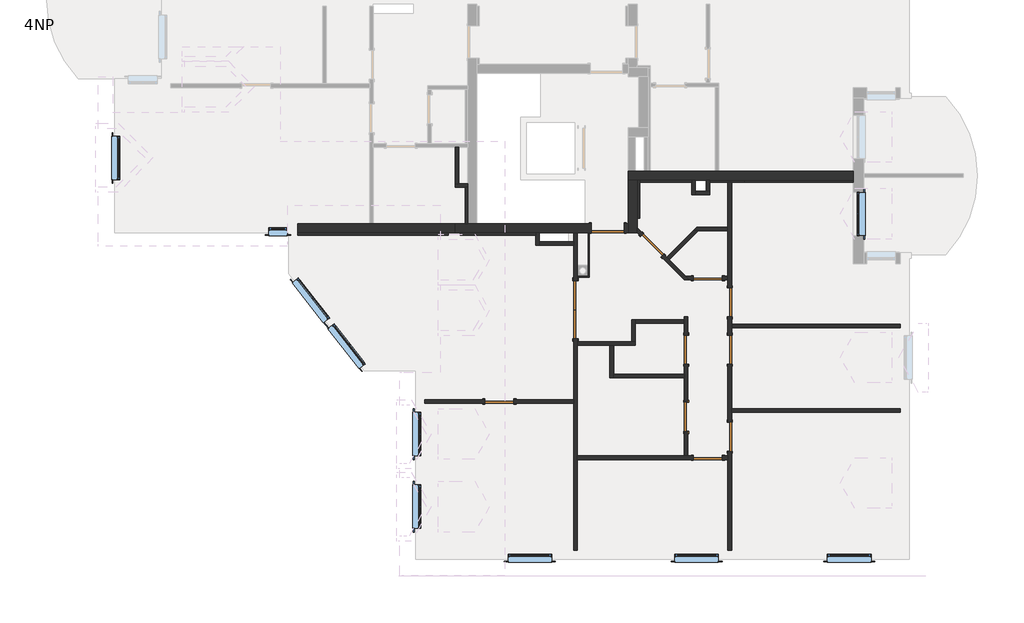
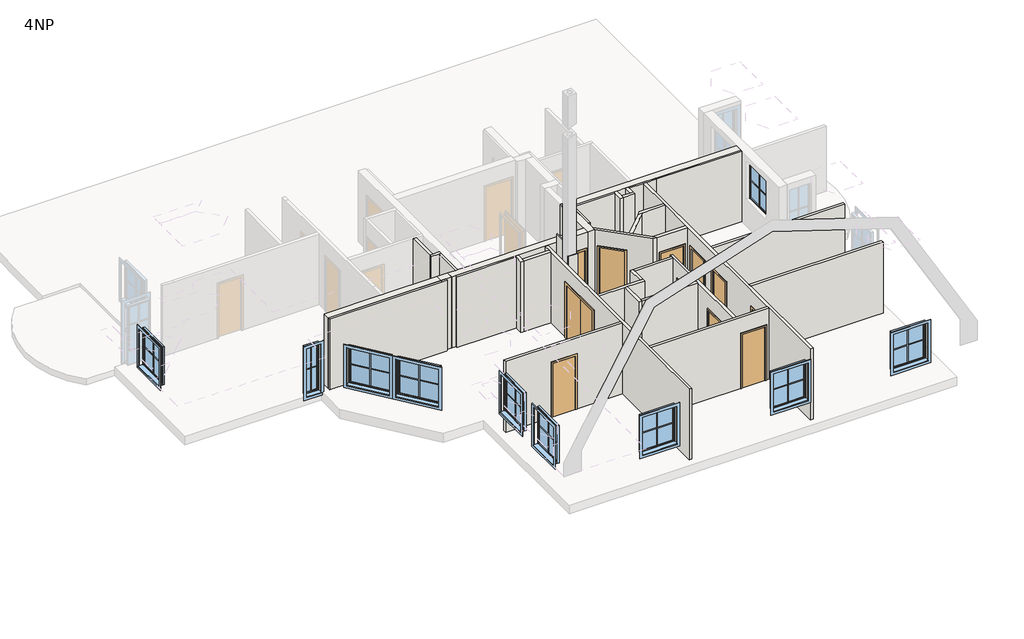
# One storey, part 1 of 5: 36 walls, 11 doors, 10 windows.
"""IFC4 building model written with IfcOpenShell, lengths in millimetres."""

from ifc_helpers import new_model, si_unit, frame, origin, place, context, project, spatial, polyline, outline, extrude, faceted_brep, transform, mapped, element, save
from components import door_1600_x_2000mm_ba48827e, sd_800x2000_6a16926d, sd_800x2000_80f4ff25, sd_900x2000_a6683946, standard_window_with_mullions_d3525f46, standard_window_with_mullions_80486b60, standard_window_with_mullions_8db575f9

model = new_model("IFC4")

# Units and contexts
model_context = context("Model", 3, world=origin())
ifc_project = project(units=[si_unit("LENGTHUNIT", "METRE", prefix="MILLI")], contexts=[model_context])

# Site, building, storey
site = spatial("IfcSite", under=ifc_project)
building = spatial("IfcBuilding", under=site)
storey = spatial("IfcBuildingStorey", under=building, Name="4NP", Elevation=8850.0)

# Doors
placement = place(None, origin())
door_1600_x_2000mm_shape = door_1600_x_2000mm_ba48827e(model_context)
element("IfcDoor", 1, ObjectType="DvoukridleOtevirave : 1600 x 2000mm", at=placement, inside=storey, context=model_context, shape_type="MappedRepresentation", body=[
    mapped(door_1600_x_2000mm_shape, transform((113.5618728, -4202.3709459, 8850.0), x_axis=(0.0, 1.0, 0.0), y_axis=(-1.0, 0.0, 0.0), z_axis=(0.0, 0.0, 1.0))),
])
sd_800x2000_shape = sd_800x2000_6a16926d(model_context)
element("IfcDoor", 2, ObjectType="JednokridlePlne : SD 800x2000", at=placement, inside=storey, context=model_context, shape_type="MappedRepresentation", body=[
    mapped(sd_800x2000_shape, transform((3162.8037835, -5302.3942243, 8850.0), x_axis=(0.0, -1.0, 0.0), y_axis=(1.0, 0.0, 0.0), z_axis=(0.0, 0.0, 1.0))),
])
element("IfcDoor", 3, ObjectType="JednokridlePlne : SD 800x2000", at=placement, inside=storey, context=model_context, shape_type="MappedRepresentation", body=[
    mapped(sd_800x2000_shape, transform((3162.8037835, -7157.3709459, 8850.0), x_axis=(0.0, -1.0, 0.0), y_axis=(1.0, 0.0, 0.0), z_axis=(0.0, 0.0, 1.0))),
])
element("IfcDoor", 4, ObjectType="JednokridlePlne : SD 800x2000", at=placement, inside=storey, context=model_context, shape_type="MappedRepresentation", body=[
    mapped(sd_800x2000_shape, transform((4362.8037835, -4002.3976507, 8850.0), x_axis=(0.0, 1.0, 0.0), y_axis=(-1.0, 0.0, 0.0), z_axis=(0.0, 0.0, 1.0))),
])
element("IfcDoor", 5, ObjectType="JednokridlePlne : SD 800x2000", at=placement, inside=storey, context=model_context, shape_type="MappedRepresentation", body=[
    mapped(sd_800x2000_shape, transform((2229.9981852, -2428.8520044, 8850.0), x_axis=(-0.7071057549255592, 0.7071078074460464, 0.0), y_axis=(-0.7071078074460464, -0.7071057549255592, 0.0), z_axis=(0.0, 0.0, 1.0))),
])
sd_800x2000_2_shape = sd_800x2000_80f4ff25(model_context)
element("IfcDoor", 6, ObjectType="JednokridlePlne : SD 800x2000", at=placement, inside=storey, context=model_context, shape_type="MappedRepresentation", body=[
    mapped(sd_800x2000_2_shape, transform((-1986.8171719, -6732.3709459, 8850.0), x_axis=(-1.0, 0.0, 0.0), y_axis=(0.0, -1.0, 0.0), z_axis=(0.0, 0.0, 1.0))),
])
element("IfcDoor", 7, ObjectType="JednokridlePlne : SD 800x2000", at=placement, inside=storey, context=model_context, shape_type="MappedRepresentation", body=[
    mapped(sd_800x2000_2_shape, transform((3762.8037834, -8282.3709459, 8850.0), x_axis=(-1.0, 0.0, 0.0), y_axis=(0.0, -1.0, 0.0), z_axis=(0.0, 0.0, 1.0))),
])
element("IfcDoor", 8, ObjectType="JednokridlePlne : SD 800x2000", at=placement, inside=storey, context=model_context, shape_type="MappedRepresentation", body=[
    mapped(sd_800x2000_2_shape, transform((4362.8037835, -5302.394226, 8850.0), x_axis=(0.0, -1.0, 0.0), y_axis=(1.0, 0.0, 0.0), z_axis=(0.0, 0.0, 1.0))),
])
element("IfcDoor", 9, ObjectType="JednokridlePlne : SD 800x2000", at=placement, inside=storey, context=model_context, shape_type="MappedRepresentation", body=[
    mapped(sd_800x2000_2_shape, transform((4362.8037835, -7700.6759544, 8850.0), x_axis=(0.0, -1.0, 0.0), y_axis=(1.0, 0.0, 0.0), z_axis=(0.0, 0.0, 1.0))),
])
element("IfcDoor", 10, ObjectType="JednokridlePlne : SD 800x2000", at=placement, inside=storey, context=model_context, shape_type="MappedRepresentation", body=[
    mapped(sd_800x2000_2_shape, transform((3762.8037834, -3332.3709459, 8850.0), x_axis=(-0.9999999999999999, 0.0, 0.0), y_axis=(0.0, -0.9999999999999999, 0.0), z_axis=(0.0, 0.0, 1.0))),
])
sd_900x2000_shape = sd_900x2000_a6683946(model_context)
element("IfcDoor", 11, ObjectType="JednokridlePlne : SD 900x2000", at=placement, inside=storey, context=model_context, shape_type="MappedRepresentation", body=[
    mapped(sd_900x2000_shape, transform((1002.808136, -1957.3709459, 8850.0), x_axis=(1.0, 0.0, 0.0), y_axis=(0.0, 1.0, 0.0), z_axis=(0.0, 0.0, 1.0))),
])

# Walls
element("IfcWall", 12, ObjectType="Interior - 100mm", at=placement, inside=storey, context=model_context, shape_type="SweptSolid", body=[
    extrude(outline(polyline([(-3207.1962165, -732.3709459), (-3207.1962165, 267.6290541), (-3107.1962165, 267.6290541), (-3107.1962165, -732.3709459), (-3207.1962165, -732.3709459)])), frame((0.0, 0.0, 8850.0), z_axis=(0.0, 0.0, 1.0), x_axis=(1.0, 0.0, 0.0)), (0.0, 0.0, 1.0), 2630.0),
])
element("IfcWall", 13, ObjectType="Interior - 100mm", at=placement, inside=storey, context=model_context, shape_type="Brep", body=[
    faceted_brep([(-3207.1962165, -832.3709459, 8850.0), (-2922.1962165, -832.3709459, 8850.0), (-2857.1962165, -832.3709459, 8850.0), (-2857.1962165, -832.3709459, 11480.0), (-2922.1962165, -832.3709459, 11480.0), (-3207.1962165, -832.3709459, 11480.0), (-3207.1962165, -732.3709459, 8850.0), (-3207.1962165, -732.3709459, 11480.0), (-3107.1962165, -732.3709459, 11480.0), (-2857.1962165, -732.3709459, 11480.0), (-2857.1962165, -732.3709459, 8850.0), (-3107.1962165, -732.3709459, 8850.0)], [[[0, 1, 2, 3, 4, 5]], [[6, 7, 8, 9, 10, 11]], [[2, 1, 0, 6, 11, 10]], [[0, 5, 7, 6]], [[3, 2, 10, 9]], [[5, 4, 3, 9, 8, 7]]]),
])
element("IfcWall", 14, ObjectType="Interior - 100mm", at=placement, inside=storey, context=model_context, shape_type="Brep", body=[
    faceted_brep([(-986.4381272, -2082.3709459, 8850.0), (-986.4381272, -2147.3709459, 8850.0), (-986.4381272, -2432.3709459, 8850.0), (-986.4381272, -2432.3709459, 11480.0), (-986.4381272, -2147.3709459, 11480.0), (-986.4381272, -2082.3709459, 11480.0), (-886.4381272, -2082.3709459, 8850.0), (-886.4381272, -2082.3709459, 11480.0), (-886.4381272, -2332.3709459, 11480.0), (-886.4381272, -2432.3709459, 11480.0), (-886.4381272, -2432.3709459, 8850.0), (-886.4381272, -2332.3709459, 8850.0)], [[[0, 1, 2, 3, 4, 5]], [[6, 7, 8, 9, 10, 11]], [[2, 1, 0, 6, 11, 10]], [[3, 2, 10, 9]], [[0, 5, 7, 6]], [[5, 4, 3, 9, 8, 7]]]),
])
element("IfcWall", 15, ObjectType="Interior - 100mm", at=placement, inside=storey, context=model_context, shape_type="Brep", body=[
    faceted_brep([(-886.4381272, -2432.3709459, 8850.0), (63.5618728, -2432.3709459, 8850.0), (63.5618728, -2432.3709459, 11480.0), (-886.4381272, -2432.3709459, 11480.0), (-886.4381272, -2332.3709459, 8850.0), (-886.4381272, -2332.3709459, 11480.0), (-86.4381272, -2332.3709459, 11480.0), (63.5618728, -2332.3709459, 11480.0), (63.5618728, -2332.3709459, 8850.0)], [[[0, 1, 2, 3]], [[4, 5, 6, 7, 8]], [[1, 0, 4, 8]], [[0, 3, 5, 4]], [[2, 1, 8, 7]], [[3, 2, 7, 6, 5]]]),
])
element("IfcWall", 16, ObjectType="Interior - 100mm", at=placement, inside=storey, context=model_context, shape_type="Brep", body=[
    faceted_brep([(3312.8037835, -632.3709459, 8850.0), (3312.8037835, -697.3709459, 8850.0), (3312.8037835, -1032.3709459, 8850.0), (3312.8037835, -1032.3709459, 11480.0), (3312.8037835, -697.3709459, 11480.0), (3312.8037835, -632.3709459, 11480.0), (3412.8037835, -632.3709459, 8850.0), (3412.8037835, -632.3709459, 11480.0), (3412.8037835, -932.3709459, 11480.0), (3412.8037835, -1032.3709459, 11480.0), (3412.8037835, -1032.3709459, 8850.0), (3412.8037835, -932.3709459, 8850.0)], [[[0, 1, 2, 3, 4, 5]], [[6, 7, 8, 9, 10, 11]], [[2, 1, 0, 6, 11, 10]], [[3, 2, 10, 9]], [[0, 5, 7, 6]], [[5, 4, 3, 9, 8, 7]]]),
])
element("IfcWall", 17, ObjectType="Interior - 100mm", at=placement, inside=storey, context=model_context, shape_type="Brep", body=[
    faceted_brep([(3412.8037835, -1032.3709459, 8850.0), (3812.8037835, -1032.3709459, 8850.0), (3812.8037835, -1032.3709459, 11480.0), (3412.8037835, -1032.3709459, 11480.0), (3412.8037835, -932.3709459, 8850.0), (3412.8037835, -932.3709459, 11480.0), (3712.8037835, -932.3709459, 11480.0), (3812.8037835, -932.3709459, 11480.0), (3812.8037835, -932.3709459, 8850.0), (3712.8037835, -932.3709459, 8850.0)], [[[0, 1, 2, 3]], [[4, 5, 6, 7, 8, 9]], [[1, 0, 4, 9, 8]], [[2, 1, 8, 7]], [[0, 3, 5, 4]], [[3, 2, 7, 6, 5]]]),
])
element("IfcWall", 18, ObjectType="Interior - 100mm", at=placement, inside=storey, context=model_context, shape_type="Brep", body=[
    faceted_brep([(3812.8037835, -932.3709459, 8850.0), (3812.8037835, -697.3709459, 8850.0), (3812.8037835, -632.3709459, 8850.0), (3812.8037835, -632.3709459, 11480.0), (3812.8037835, -697.3709459, 11480.0), (3812.8037835, -932.3709459, 11480.0), (3712.8037835, -932.3709459, 8850.0), (3712.8037835, -932.3709459, 11480.0), (3712.8037835, -632.3709459, 11480.0), (3712.8037835, -632.3709459, 8850.0)], [[[0, 1, 2, 3, 4, 5]], [[6, 7, 8, 9]], [[2, 1, 0, 6, 9]], [[0, 5, 7, 6]], [[3, 2, 9, 8]], [[5, 4, 3, 8, 7]]]),
])
element("IfcWall", 19, ObjectType="Interior - 100mm", at=placement, inside=storey, context=model_context, shape_type="Brep", body=[
    faceted_brep([(63.5618728, -2097.3540193, 8850.0), (63.5618728, -2332.3709459, 8850.0), (63.5618728, -2432.3709459, 8850.0), (63.5618728, -3402.3709459, 8850.0), (63.5618728, -3402.3709459, 10850.0), (63.5618728, -5002.3709459, 10850.0), (63.5618728, -5002.3709459, 8850.0), (63.5618728, -6682.3709459, 8850.0), (63.5618728, -6782.3709459, 8850.0), (63.5618728, -10832.3709459, 8850.0), (63.5618728, -10832.3709459, 11480.0), (63.5618728, -6782.3709459, 11480.0), (63.5618728, -6682.3709459, 11480.0), (63.5618728, -2432.3709459, 11480.0), (63.5618728, -2332.3709459, 11480.0), (63.5618728, -2097.3540193, 11480.0), (163.5618728, -3402.3709459, 10850.0), (163.5618728, -3402.3709459, 8850.0), (163.5618728, -3312.3709459, 8850.0), (163.5618728, -3282.3709459, 8850.0), (163.5618728, -2982.3709459, 8850.0), (163.5618728, -2097.3540193, 8850.0), (163.5618728, -2097.3540193, 11480.0), (163.5618728, -5082.3709459, 11480.0), (163.5618728, -5182.3709459, 11480.0), (163.5618728, -8232.3709459, 11480.0), (163.5618728, -8332.3709459, 11480.0), (163.5618728, -10832.3709459, 11480.0), (163.5618728, -10832.3709459, 8850.0), (163.5618728, -8332.3709459, 8850.0), (163.5618728, -8232.3709459, 8850.0), (163.5618728, -5182.3709459, 8850.0), (163.5618728, -5082.3709459, 8850.0), (163.5618728, -5002.3709459, 8850.0), (163.5618728, -5002.3709459, 10850.0)], [[[0, 1, 2, 3, 4, 5, 6, 7, 8, 9, 10, 11, 12, 13, 14, 15]], [[16, 17, 18, 19, 20, 21, 22, 23, 24, 25, 26, 27, 28, 29, 30, 31, 32, 33, 34]], [[21, 20, 19, 18, 17, 3, 2, 1, 0]], [[33, 32, 31, 30, 29, 28, 9, 8, 7, 6]], [[0, 15, 22, 21]], [[10, 9, 28, 27]], [[15, 14, 13, 12, 11, 10, 27, 26, 25, 24, 23, 22]], [[4, 3, 17, 16]], [[5, 4, 16, 34]], [[6, 5, 34, 33]]]),
])
element("IfcWall", 20, ObjectType="Interior - 100mm", at=placement, inside=storey, context=model_context, shape_type="SweptSolid", body=[
    extrude(outline(polyline([(8850.0, -4037.1962165), (8850.0, -2386.8171719), (10850.0, -2386.8171719), (10850.0, -1586.8171719), (8850.0, -1586.8171719), (8850.0, 63.5618728), (11480.0, 63.5618728), (11480.0, -4037.1962165), (8850.0, -4037.1962165)])), frame((0.0, -6782.3709459, 0.0), z_axis=(0.0, 1.0, 0.0), x_axis=(0.0, 0.0, 1.0)), (0.0, 0.0, 1.0), 100.0),
])
element("IfcWall", 21, ObjectType="Interior - 100mm", at=placement, inside=storey, context=model_context, shape_type="Brep", body=[
    faceted_brep([(163.5618728, -5182.3709459, 8850.0), (1063.5618728, -5182.3709459, 8850.0), (1163.5618728, -5182.3709459, 8850.0), (1763.5618728, -5182.3709459, 8850.0), (1763.5618728, -5182.3709459, 11480.0), (1163.5618728, -5182.3709459, 11480.0), (1063.5618728, -5182.3709459, 11480.0), (163.5618728, -5182.3709459, 11480.0), (163.5618728, -5082.3709459, 8850.0), (163.5618728, -5082.3709459, 11480.0), (1663.5618728, -5082.3709459, 11480.0), (1763.5618728, -5082.3709459, 11480.0), (1763.5618728, -5082.3709459, 8850.0), (1663.5618728, -5082.3709459, 8850.0)], [[[0, 1, 2, 3, 4, 5, 6, 7]], [[8, 9, 10, 11, 12, 13]], [[3, 2, 1, 0, 8, 13, 12]], [[4, 3, 12, 11]], [[0, 7, 9, 8]], [[7, 6, 5, 4, 11, 10, 9]]]),
])
element("IfcWall", 22, ObjectType="Interior - 100mm", at=placement, inside=storey, context=model_context, shape_type="Brep", body=[
    faceted_brep([(1763.5618728, -5082.3709459, 8850.0), (1763.5618728, -4582.3709459, 8850.0), (1763.5618728, -4482.3709459, 8850.0), (1763.5618728, -4482.3709459, 11480.0), (1763.5618728, -4582.3709459, 11480.0), (1763.5618728, -5082.3709459, 11480.0), (1663.5618728, -5082.3709459, 8850.0), (1663.5618728, -5082.3709459, 11480.0), (1663.5618728, -4482.3709459, 11480.0), (1663.5618728, -4482.3709459, 8850.0)], [[[0, 1, 2, 3, 4, 5]], [[6, 7, 8, 9]], [[2, 1, 0, 6, 9]], [[3, 2, 9, 8]], [[0, 5, 7, 6]], [[5, 4, 3, 8, 7]]]),
])
element("IfcWall", 23, ObjectType="Interior - 100mm", at=placement, inside=storey, context=model_context, shape_type="SweptSolid", body=[
    extrude(outline(polyline([(3112.8037835, -4582.3709459), (1763.5618728, -4582.3709459), (1763.5618728, -4482.3709459), (3112.8037835, -4482.3709459), (3112.8037835, -4582.3709459)])), frame((0.0, 0.0, 8850.0), z_axis=(0.0, 0.0, 1.0), x_axis=(1.0, 0.0, 0.0)), (0.0, 0.0, 1.0), 2630.0),
])
element("IfcWall", 24, ObjectType="Interior - 100mm", at=placement, inside=storey, context=model_context, shape_type="Brep", body=[
    faceted_brep([(3112.8037835, -7557.3709459, 10850.0), (3112.8037835, -7557.3709459, 8850.0), (3112.8037835, -8232.3709459, 8850.0), (3112.8037835, -8232.3709459, 11480.0), (3112.8037835, -6082.3709459, 11480.0), (3112.8037835, -5982.3709459, 11480.0), (3112.8037835, -4582.3709459, 11480.0), (3112.8037835, -4482.3709459, 11480.0), (3112.8037835, -4397.3540193, 11480.0), (3112.8037835, -4397.3540193, 8850.0), (3112.8037835, -4482.3709459, 8850.0), (3112.8037835, -4582.3709459, 8850.0), (3112.8037835, -4902.3942243, 8850.0), (3112.8037835, -4902.3942243, 10850.0), (3112.8037835, -5702.3942243, 10850.0), (3112.8037835, -5702.3942243, 8850.0), (3112.8037835, -5982.3709459, 8850.0), (3112.8037835, -6082.3709459, 8850.0), (3112.8037835, -6757.3709459, 8850.0), (3112.8037835, -6757.3709459, 10850.0), (3212.8037835, -8232.3709459, 8850.0), (3212.8037835, -7557.3709459, 8850.0), (3212.8037835, -7557.3709459, 10850.0), (3212.8037835, -6757.3709459, 10850.0), (3212.8037835, -6757.3709459, 8850.0), (3212.8037835, -5702.3942243, 8850.0), (3212.8037835, -5702.3942243, 10850.0), (3212.8037835, -4902.3942243, 10850.0), (3212.8037835, -4902.3942243, 8850.0), (3212.8037835, -4397.3540193, 8850.0), (3212.8037835, -4397.3540193, 11480.0), (3212.8037835, -8232.3709459, 11480.0)], [[[0, 1, 2, 3, 4, 5, 6, 7, 8, 9, 10, 11, 12, 13, 14, 15, 16, 17, 18, 19]], [[20, 21, 22, 23, 24, 25, 26, 27, 28, 29, 30, 31]], [[2, 1, 21, 20]], [[12, 11, 10, 9, 29, 28]], [[18, 17, 16, 15, 25, 24]], [[9, 8, 30, 29]], [[3, 2, 20, 31]], [[8, 7, 6, 5, 4, 3, 31, 30]], [[26, 25, 15, 14]], [[27, 26, 14, 13]], [[28, 27, 13, 12]], [[22, 21, 1, 0]], [[23, 22, 0, 19]], [[24, 23, 19, 18]]]),
])
element("IfcWall", 25, ObjectType="Interior - 100mm", at=placement, inside=storey, context=model_context, shape_type="Brep", body=[
    faceted_brep([(1063.5618728, -5182.3709459, 8850.0), (1063.5618728, -6082.3709459, 8850.0), (1063.5618728, -6082.3709459, 11480.0), (1063.5618728, -5182.3709459, 11480.0), (1163.5618728, -5182.3709459, 8850.0), (1163.5618728, -5182.3709459, 11480.0), (1163.5618728, -5982.3709459, 11480.0), (1163.5618728, -6082.3709459, 11480.0), (1163.5618728, -6082.3709459, 8850.0), (1163.5618728, -5982.3709459, 8850.0)], [[[0, 1, 2, 3]], [[4, 5, 6, 7, 8, 9]], [[1, 0, 4, 9, 8]], [[2, 1, 8, 7]], [[0, 3, 5, 4]], [[3, 2, 7, 6, 5]]]),
])
element("IfcWall", 26, ObjectType="Interior - 100mm", at=placement, inside=storey, context=model_context, shape_type="SweptSolid", body=[
    extrude(outline(polyline([(3112.8037835, -6082.3709459), (1163.5618728, -6082.3709459), (1163.5618728, -5982.3709459), (3112.8037835, -5982.3709459), (3112.8037835, -6082.3709459)])), frame((0.0, 0.0, 8850.0), z_axis=(0.0, 0.0, 1.0), x_axis=(1.0, 0.0, 0.0)), (0.0, 0.0, 1.0), 2630.0),
])
element("IfcWall", 27, ObjectType="Interior - 100mm", at=placement, inside=storey, context=model_context, shape_type="Brep", body=[
    faceted_brep([(163.5618728, -8332.3709459, 8850.0), (3362.8037834, -8332.3709459, 8850.0), (3362.8037834, -8332.3709459, 10850.0), (4162.8037834, -8332.3709459, 10850.0), (4162.8037834, -8332.3709459, 8850.0), (4312.8037835, -8332.3709459, 8850.0), (4312.8037835, -8332.3709459, 11480.0), (163.5618728, -8332.3709459, 11480.0), (3362.8037834, -8232.3709459, 10850.0), (3362.8037834, -8232.3709459, 8850.0), (3212.8037835, -8232.3709459, 8850.0), (3112.8037835, -8232.3709459, 8850.0), (163.5618728, -8232.3709459, 8850.0), (163.5618728, -8232.3709459, 11480.0), (3112.8037835, -8232.3709459, 11480.0), (3212.8037835, -8232.3709459, 11480.0), (4312.8037835, -8232.3709459, 11480.0), (4312.8037835, -8232.3709459, 8850.0), (4162.8037834, -8232.3709459, 8850.0), (4162.8037834, -8232.3709459, 10850.0)], [[[0, 1, 2, 3, 4, 5, 6, 7]], [[8, 9, 10, 11, 12, 13, 14, 15, 16, 17, 18, 19]], [[12, 11, 10, 9, 1, 0]], [[18, 17, 5, 4]], [[0, 7, 13, 12]], [[6, 5, 17, 16]], [[7, 6, 16, 15, 14, 13]], [[2, 1, 9, 8]], [[3, 2, 8, 19]], [[4, 3, 19, 18]]]),
])
element("IfcWall", 28, ObjectType="Interior - 100mm", at=placement, inside=storey, context=model_context, shape_type="Brep", body=[
    faceted_brep([(1812.807557, -2082.3709459, 8850.0), (1911.8004928, -2181.3641691, 8850.0), (1911.8004928, -2181.3641691, 10850.0), (2477.4850968, -2747.0504151, 10850.0), (2477.4850968, -2747.0504151, 8850.0), (3112.8037835, -3382.3709459, 8850.0), (3112.8037835, -3382.3709459, 11480.0), (1812.807557, -2082.3709459, 11480.0), (1982.5112736, -2110.6535936, 10850.0), (1982.5112736, -2110.6535936, 8850.0), (1812.8076722, -1940.9494996, 8850.0), (1812.8076722, -1940.9494996, 11480.0), (2629.2247893, -2757.3689866, 11480.0), (2699.9353648, -2828.0797673, 11480.0), (3154.2252247, -3282.3709459, 11480.0), (3254.2249345, -3382.3709459, 11480.0), (3254.2249345, -3382.3709459, 8850.0), (3154.2252247, -3282.3709459, 8850.0), (2699.9353648, -2828.0797673, 8850.0), (2629.2247893, -2757.3689866, 8850.0), (2548.1958775, -2676.3398396, 8850.0), (2548.1958775, -2676.3398396, 10850.0)], [[[0, 1, 2, 3, 4, 5, 6, 7]], [[8, 9, 10, 11, 12, 13, 14, 15, 16, 17, 18, 19, 20, 21]], [[10, 9, 1, 0]], [[20, 19, 18, 17, 16, 5, 4]], [[6, 5, 16, 15]], [[0, 7, 11, 10]], [[7, 6, 15, 14, 13, 12, 11]], [[2, 1, 9, 8]], [[3, 2, 8, 21]], [[4, 3, 21, 20]]]),
])
element("IfcWall", 29, ObjectType="Interior - 100mm", at=placement, inside=storey, context=model_context, shape_type="Brep", body=[
    faceted_brep([(3254.2249345, -3382.3709459, 8850.0), (3362.8037834, -3382.3709459, 8850.0), (3362.8037834, -3382.3709459, 10850.0), (4162.8037834, -3382.3709459, 10850.0), (4162.8037834, -3382.3709459, 8850.0), (4312.8037835, -3382.3709459, 8850.0), (4312.8037835, -3382.3709459, 11480.0), (3254.2249345, -3382.3709459, 11480.0), (3362.8037834, -3282.3709459, 10850.0), (3362.8037834, -3282.3709459, 8850.0), (3154.2252247, -3282.3709459, 8850.0), (3154.2252247, -3282.3709459, 11480.0), (4312.8037835, -3282.3709459, 11480.0), (4312.8037835, -3282.3709459, 8850.0), (4162.8037834, -3282.3709459, 8850.0), (4162.8037834, -3282.3709459, 10850.0)], [[[0, 1, 2, 3, 4, 5, 6, 7]], [[8, 9, 10, 11, 12, 13, 14, 15]], [[10, 9, 1, 0]], [[14, 13, 5, 4]], [[0, 7, 11, 10]], [[6, 5, 13, 12]], [[7, 6, 12, 11]], [[2, 1, 9, 8]], [[3, 2, 8, 15]], [[4, 3, 15, 14]]]),
])
element("IfcWall", 30, ObjectType="Interior - 100mm", at=placement, inside=storey, context=model_context, shape_type="Brep", body=[
    faceted_brep([(4312.8037835, -1932.3709459, 8850.0), (3454.2252247, -1932.3709459, 8850.0), (3454.2252247, -1932.3709459, 11480.0), (4312.8037835, -1932.3709459, 11480.0), (4312.8037835, -2032.3709459, 8850.0), (4312.8037835, -2032.3709459, 11480.0), (3495.6464959, -2032.3709459, 11480.0), (3354.2249345, -2032.3709459, 11480.0), (3354.2249345, -2032.3709459, 8850.0), (3495.6464959, -2032.3709459, 8850.0)], [[[0, 1, 2, 3]], [[4, 5, 6, 7, 8, 9]], [[1, 0, 4, 9, 8]], [[2, 1, 8, 7]], [[0, 3, 5, 4]], [[3, 2, 7, 6, 5]]]),
])
element("IfcWall", 31, ObjectType="Interior - 100mm", at=placement, inside=storey, context=model_context, shape_type="SweptSolid", body=[
    extrude(outline(polyline([(2629.2247893, -2757.3689866), (3354.2249345, -2032.3709459), (3495.6464959, -2032.3709459), (2699.9353648, -2828.0797673), (2629.2247893, -2757.3689866)])), frame((0.0, 0.0, 8850.0), z_axis=(0.0, 0.0, 1.0), x_axis=(1.0, 0.0, 0.0)), (0.0, 0.0, 1.0), 2630.0),
])
element("IfcWall", 32, ObjectType="Interior - 100mm", at=placement, inside=storey, context=model_context, shape_type="Brep", body=[
    faceted_brep([(4312.8037835, -697.3709459, 8850.0), (4312.8037835, -1932.3709459, 8850.0), (4312.8037835, -2032.3709459, 8850.0), (4312.8037835, -3282.3709459, 8850.0), (4312.8037835, -3382.3709459, 8850.0), (4312.8037835, -3602.3976507, 8850.0), (4312.8037835, -3602.3976507, 10850.0), (4312.8037835, -4402.3976507, 10850.0), (4312.8037835, -4402.3976507, 8850.0), (4312.8037835, -4902.394226, 8850.0), (4312.8037835, -4902.394226, 10850.0), (4312.8037835, -5702.394226, 10850.0), (4312.8037835, -5702.394226, 8850.0), (4312.8037835, -7300.6759544, 8850.0), (4312.8037835, -7300.6759544, 10850.0), (4312.8037835, -8100.6759544, 10850.0), (4312.8037835, -8100.6759544, 8850.0), (4312.8037835, -8232.3709459, 8850.0), (4312.8037835, -8332.3709459, 8850.0), (4312.8037835, -10832.3709459, 8850.0), (4312.8037835, -10832.3709459, 11480.0), (4312.8037835, -8332.3709459, 11480.0), (4312.8037835, -8232.3709459, 11480.0), (4312.8037835, -3382.3709459, 11480.0), (4312.8037835, -3282.3709459, 11480.0), (4312.8037835, -2032.3709459, 11480.0), (4312.8037835, -1932.3709459, 11480.0), (4312.8037835, -697.3709459, 11480.0), (4412.8037835, -3602.3976507, 10850.0), (4412.8037835, -3602.3976507, 8850.0), (4412.8037835, -697.3709459, 8850.0), (4412.8037835, -697.3709459, 11480.0), (4412.8037835, -4602.3709459, 11480.0), (4412.8037835, -4702.3709459, 11480.0), (4412.8037835, -6932.3709459, 11480.0), (4412.8037835, -7032.3709459, 11480.0), (4412.8037835, -10832.3709459, 11480.0), (4412.8037835, -10832.3709459, 8850.0), (4412.8037835, -8100.6759544, 8850.0), (4412.8037835, -8100.6759544, 10850.0), (4412.8037835, -7300.6759544, 10850.0), (4412.8037835, -7300.6759544, 8850.0), (4412.8037835, -7032.3709459, 8850.0), (4412.8037835, -6932.3709459, 8850.0), (4412.8037835, -5702.394226, 8850.0), (4412.8037835, -5702.394226, 10850.0), (4412.8037835, -4902.394226, 10850.0), (4412.8037835, -4902.394226, 8850.0), (4412.8037835, -4702.3709459, 8850.0), (4412.8037835, -4602.3709459, 8850.0), (4412.8037835, -4402.3976507, 8850.0), (4412.8037835, -4402.3976507, 10850.0)], [[[0, 1, 2, 3, 4, 5, 6, 7, 8, 9, 10, 11, 12, 13, 14, 15, 16, 17, 18, 19, 20, 21, 22, 23, 24, 25, 26, 27]], [[28, 29, 30, 31, 32, 33, 34, 35, 36, 37, 38, 39, 40, 41, 42, 43, 44, 45, 46, 47, 48, 49, 50, 51]], [[19, 18, 17, 16, 38, 37]], [[30, 29, 5, 4, 3, 2, 1, 0]], [[13, 12, 44, 43, 42, 41]], [[50, 49, 48, 47, 9, 8]], [[20, 19, 37, 36]], [[0, 27, 31, 30]], [[27, 26, 25, 24, 23, 22, 21, 20, 36, 35, 34, 33, 32, 31]], [[45, 44, 12, 11]], [[46, 45, 11, 10]], [[47, 46, 10, 9]], [[39, 38, 16, 15]], [[40, 39, 15, 14]], [[41, 40, 14, 13]], [[6, 5, 29, 28]], [[7, 6, 28, 51]], [[8, 7, 51, 50]]]),
])
element("IfcWall", 33, ObjectType="Interior - 100mm", at=placement, inside=storey, context=model_context, shape_type="SweptSolid", body=[
    extrude(outline(polyline([(9062.8037835, -7032.3709459), (4412.8037835, -7032.3709459), (4412.8037835, -6932.3709459), (9062.8037835, -6932.3709459), (9062.8037835, -7032.3709459)])), frame((0.0, 0.0, 8850.0), z_axis=(0.0, 0.0, 1.0), x_axis=(1.0, 0.0, 0.0)), (0.0, 0.0, 1.0), 2630.0),
])
element("IfcWall", 34, ObjectType="Interior - 100mm", at=placement, inside=storey, context=model_context, shape_type="SweptSolid", body=[
    extrude(outline(polyline([(9062.8037835, -4702.3709459), (4412.8037835, -4702.3709459), (4412.8037835, -4602.3709459), (9062.8037835, -4602.3709459), (9062.8037835, -4702.3709459)])), frame((0.0, 0.0, 8850.0), z_axis=(0.0, 0.0, 1.0), x_axis=(1.0, 0.0, 0.0)), (0.0, 0.0, 1.0), 2630.0),
])
element("IfcWall", 35, ObjectType="Interior - 250mm", at=placement, inside=storey, context=model_context, shape_type="Brep", body=[
    faceted_brep([(7762.8037835, -382.3709459, 8850.0), (4062.8037835, -382.3709459, 8850.0), (3962.8037835, -382.3709459, 8850.0), (2177.8037835, -382.3709459, 8850.0), (2112.8037835, -382.3709459, 8850.0), (2012.8037835, -382.3709459, 8850.0), (1762.8087381, -382.3709459, 8850.0), (1562.8087381, -382.3709459, 8850.0), (1562.8087381, -382.3709459, 11480.0), (1762.8087381, -382.3709459, 11480.0), (2012.8037835, -382.3709459, 11480.0), (2112.8037835, -382.3709459, 11480.0), (2177.8037835, -382.3709459, 11480.0), (3962.8037835, -382.3709459, 11480.0), (4062.8037835, -382.3709459, 11480.0), (7762.8037835, -382.3709459, 11480.0), (7762.8037835, -632.3709459, 8850.0), (7762.8037835, -632.3709459, 11480.0), (3812.8037835, -632.3709459, 11480.0), (3712.8037835, -632.3709459, 11480.0), (3412.8037835, -632.3709459, 11480.0), (3312.8037835, -632.3709459, 11480.0), (1812.8087381, -632.3709459, 11480.0), (1562.8087381, -632.3709459, 11480.0), (1562.8087381, -632.3709459, 8850.0), (1812.8087381, -632.3709459, 8850.0), (3312.8037835, -632.3709459, 8850.0), (3412.8037835, -632.3709459, 8850.0), (3712.8037835, -632.3709459, 8850.0), (3812.8037835, -632.3709459, 8850.0)], [[[0, 1, 2, 3, 4, 5, 6, 7, 8, 9, 10, 11, 12, 13, 14, 15]], [[16, 17, 18, 19, 20, 21, 22, 23, 24, 25, 26, 27, 28, 29]], [[7, 6, 5, 4, 3, 2, 1, 0, 16, 29, 28, 27, 26, 25, 24]], [[8, 7, 24, 23]], [[0, 15, 17, 16]], [[15, 14, 13, 12, 11, 10, 9, 8, 23, 22, 21, 20, 19, 18, 17]]]),
])
element("IfcWall", 36, ObjectType="Interior - 250mm", at=placement, inside=storey, context=model_context, shape_type="Brep", body=[
    faceted_brep([(-7537.1962165, -2082.3709459, 8850.0), (-3217.1962165, -2082.3709459, 8850.0), (-3217.1962165, -2082.3709459, 11480.0), (-3598.9496412, -2082.3709459, 11480.0), (-7537.1962165, -2082.3709459, 11480.0), (-7537.1962165, -1832.3709459, 8850.0), (-7537.1962165, -1832.3709459, 11480.0), (-5557.1962165, -1832.3709459, 11480.0), (-5457.1962165, -1832.3709459, 11480.0), (-3598.9496412, -1832.3709459, 11480.0), (-3217.1962165, -1832.3709459, 11480.0), (-3217.1962165, -1832.3709459, 8850.0), (-5457.1962165, -1832.3709459, 8850.0), (-5557.1962165, -1832.3709459, 8850.0)], [[[0, 1, 2, 3, 4]], [[5, 6, 7, 8, 9, 10, 11, 12, 13]], [[1, 0, 5, 13, 12, 11]], [[2, 1, 11, 10]], [[0, 4, 6, 5]], [[4, 3, 9, 8, 7, 6]], [[3, 2, 10, 9]]]),
])
element("IfcWall", 37, ObjectType="Interior - 250mm", at=placement, inside=storey, context=model_context, shape_type="Brep", body=[
    faceted_brep([(1562.8087381, -632.3709459, 8850.0), (1562.8077606, -1832.3709459, 8850.0), (1562.807557, -2082.3709459, 8850.0), (1562.807557, -2082.3709459, 11480.0), (1562.8077606, -1832.3709459, 11480.0), (1562.8087381, -632.3709459, 11480.0), (1812.8087381, -632.3709459, 8850.0), (1812.8087381, -632.3709459, 11480.0), (1812.8076722, -1940.9494996, 11480.0), (1812.807557, -2082.3709459, 11480.0), (1812.807557, -2082.3709459, 8850.0), (1812.8076722, -1940.9494996, 8850.0)], [[[0, 1, 2, 3, 4, 5]], [[6, 7, 8, 9, 10, 11]], [[2, 1, 0, 6, 11, 10]], [[3, 2, 10, 9]], [[0, 5, 7, 6]], [[5, 4, 3, 9, 8, 7]]]),
])
element("IfcWall", 38, ObjectType="Interior - 250mm", at=placement, inside=storey, context=model_context, shape_type="Brep", body=[
    faceted_brep([(1452.808136, -2082.3709459, 10850.0), (1452.808136, -2082.3709459, 8850.0), (1562.807557, -2082.3709459, 8850.0), (1562.807557, -2082.3709459, 11480.0), (-86.4381272, -2082.3709459, 11480.0), (-886.4381272, -2082.3709459, 11480.0), (-986.4381272, -2082.3709459, 11480.0), (-3217.1962165, -2082.3709459, 11480.0), (-3217.1962165, -2082.3709459, 8850.0), (-986.4381272, -2082.3709459, 8850.0), (-886.4381272, -2082.3709459, 8850.0), (463.5618728, -2082.3709459, 8850.0), (493.5618728, -2082.3709459, 8850.0), (552.808136, -2082.3709459, 8850.0), (552.808136, -2082.3709459, 10850.0), (1562.8077606, -1832.3709459, 8850.0), (1452.808136, -1832.3709459, 8850.0), (1452.808136, -1832.3709459, 10850.0), (552.808136, -1832.3709459, 10850.0), (552.808136, -1832.3709459, 8850.0), (-2607.1962165, -1832.3709459, 8850.0), (-2857.1962165, -1832.3709459, 8850.0), (-2922.1962165, -1832.3709459, 8850.0), (-3217.1962165, -1832.3709459, 8850.0), (-3217.1962165, -1832.3709459, 11480.0), (-2922.1962165, -1832.3709459, 11480.0), (-2857.1962165, -1832.3709459, 11480.0), (-2607.1962165, -1832.3709459, 11480.0), (362.8037835, -1832.3709459, 11480.0), (1562.8077606, -1832.3709459, 11480.0)], [[[0, 1, 2, 3, 4, 5, 6, 7, 8, 9, 10, 11, 12, 13, 14]], [[15, 16, 17, 18, 19, 20, 21, 22, 23, 24, 25, 26, 27, 28, 29]], [[2, 1, 16, 15]], [[13, 12, 11, 10, 9, 8, 23, 22, 21, 20, 19]], [[8, 7, 24, 23]], [[3, 2, 15, 29]], [[7, 6, 5, 4, 3, 29, 28, 27, 26, 25, 24]], [[17, 16, 1, 0]], [[18, 17, 0, 14]], [[19, 18, 14, 13]]]),
])
element("IfcWall", 39, ObjectType="Interior - 300mm", at=placement, inside=storey, context=model_context, shape_type="Brep", body=[
    faceted_brep([(163.5618728, -3312.3709459, 8850.0), (493.5618728, -3312.3709459, 8850.0), (493.5618728, -3312.3709459, 11800.0), (163.5618728, -3312.3709459, 11800.0), (163.5618728, -3282.3709459, 8850.0), (163.5618728, -3282.3709459, 11800.0), (463.5618728, -3282.3709459, 11800.0), (493.5618728, -3282.3709459, 11800.0), (493.5618728, -3282.3709459, 8850.0), (463.5618728, -3282.3709459, 8850.0)], [[[0, 1, 2, 3]], [[4, 5, 6, 7, 8, 9]], [[1, 0, 4, 9, 8]], [[3, 2, 7, 6, 5]], [[2, 1, 8, 7]], [[0, 3, 5, 4]]]),
])
element("IfcWall", 40, ObjectType="Interior - 300mm", at=placement, inside=storey, context=model_context, shape_type="Brep", body=[
    faceted_brep([(493.5618728, -3282.3709459, 8850.0), (493.5618728, -2082.3709459, 8850.0), (493.5618728, -2082.3709459, 11800.0), (493.5618728, -3282.3709459, 11800.0), (463.5618728, -3282.3709459, 8850.0), (463.5618728, -3282.3709459, 11800.0), (463.5618728, -2082.3709459, 11800.0), (463.5618728, -2082.3709459, 8850.0), (463.5618728, -2982.3709459, 8850.0)], [[[0, 1, 2, 3]], [[4, 5, 6, 7, 8]], [[1, 0, 4, 8, 7]], [[3, 2, 6, 5]], [[0, 3, 5, 4]], [[2, 1, 7, 6]]]),
])
element("IfcWall", 41, ObjectType="Interior - 65mm", at=placement, inside=storey, context=model_context, shape_type="SweptSolid", body=[
    extrude(outline(polyline([(8850.0, -7537.1962165), (8850.0, -3398.9496412), (11480.0, -3398.9496412), (11480.0, -3598.9496412), (11480.0, -7537.1962165), (8850.0, -7537.1962165)])), frame((0.0, -2147.3709459, 0.0), z_axis=(0.0, 1.0, 0.0), x_axis=(0.0, 0.0, 1.0)), (0.0, 0.0, 1.0), 65.0),
])
element("IfcWall", 42, ObjectType="Interior - 65mm", at=placement, inside=storey, context=model_context, shape_type="Brep", body=[
    faceted_brep([(1877.8037835, -1682.3709459, 8850.0), (1877.8037835, -697.3709459, 8850.0), (1877.8037835, -632.3709459, 8850.0), (1877.8037835, -632.3709459, 11480.0), (1877.8037835, -697.3709459, 11480.0), (1877.8037835, -1682.3709459, 11480.0), (1812.8037835, -1682.3709459, 8850.0), (1812.8037835, -1682.3709459, 11480.0), (1812.8037835, -632.3709459, 11480.0), (1812.8037835, -632.3709459, 8850.0)], [[[0, 1, 2, 3, 4, 5]], [[6, 7, 8, 9]], [[2, 1, 0, 6, 9]], [[0, 5, 7, 6]], [[3, 2, 9, 8]], [[5, 4, 3, 8, 7]]]),
])
element("IfcWall", 43, ObjectType="Interior - 65mm", at=placement, inside=storey, context=model_context, shape_type="SweptSolid", body=[
    extrude(outline(polyline([(3312.8037835, -697.3709459), (1877.8037835, -697.3709459), (1877.8037835, -632.3709459), (3312.8037835, -632.3709459), (3312.8037835, -697.3709459)])), frame((0.0, 0.0, 8850.0), z_axis=(0.0, 0.0, 1.0), x_axis=(1.0, 0.0, 0.0)), (0.0, 0.0, 1.0), 2630.0),
])
element("IfcWall", 44, ObjectType="Interior - 65mm", at=placement, inside=storey, context=model_context, shape_type="Brep", body=[
    faceted_brep([(3812.8037835, -697.3709459, 8850.0), (4312.8037835, -697.3709459, 8850.0), (4412.8037835, -697.3709459, 8850.0), (4762.8037835, -697.3709459, 8850.0), (4762.8037835, -697.3709459, 11480.0), (4412.8037835, -697.3709459, 11480.0), (4312.8037835, -697.3709459, 11480.0), (3812.8037835, -697.3709459, 11480.0), (3812.8037835, -632.3709459, 8850.0), (3812.8037835, -632.3709459, 11480.0), (4762.8037835, -632.3709459, 11480.0), (4762.8037835, -632.3709459, 8850.0)], [[[0, 1, 2, 3, 4, 5, 6, 7]], [[8, 9, 10, 11]], [[3, 2, 1, 0, 8, 11]], [[4, 3, 11, 10]], [[0, 7, 9, 8]], [[7, 6, 5, 4, 10, 9]]]),
])
element("IfcWall", 45, ObjectType="Interior - 65mm", at=placement, inside=storey, context=model_context, shape_type="SweptSolid", body=[
    extrude(outline(polyline([(7762.8037835, -697.3709459), (4762.8037835, -697.3709459), (4762.8037835, -632.3709459), (7762.8037835, -632.3709459), (7762.8037835, -697.3709459)])), frame((0.0, 0.0, 8850.0), z_axis=(0.0, 0.0, 1.0), x_axis=(1.0, 0.0, 0.0)), (0.0, 0.0, 1.0), 2630.0),
])
element("IfcWall", 46, ObjectType="Interior - 65mm", at=placement, inside=storey, context=model_context, shape_type="SweptSolid", body=[
    extrude(outline(polyline([(-2922.1962165, -1832.3709459), (-2922.1962165, -832.3709459), (-2857.1962165, -832.3709459), (-2857.1962165, -1832.3709459), (-2922.1962165, -1832.3709459)])), frame((0.0, 0.0, 8850.0), z_axis=(0.0, 0.0, 1.0), x_axis=(1.0, 0.0, 0.0)), (0.0, 0.0, 1.0), 2630.0),
])
element("IfcWall", 47, ObjectType="Interior - 65mm", at=placement, inside=storey, context=model_context, shape_type="SweptSolid", body=[
    extrude(outline(polyline([(-986.4381272, -2147.3709459), (-3066.4381272, -2147.3709459), (-3066.4381272, -2082.3709459), (-986.4381272, -2082.3709459), (-986.4381272, -2147.3709459)])), frame((0.0, 0.0, 8850.0), z_axis=(0.0, 0.0, 1.0), x_axis=(1.0, 0.0, 0.0)), (0.0, 0.0, 1.0), 2630.0),
])

# Windows
standard_window_with_mullions_shape = standard_window_with_mullions_d3525f46(model_context)
element("IfcWindow", 48, ObjectType="Standard Window with mullions : 1400/1400", at=placement, inside=storey, context=model_context, shape_type="MappedRepresentation", body=[
    mapped(standard_window_with_mullions_shape, transform((-7124.9120428, -3903.8415782, 8850.0), x_axis=(-0.6139406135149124, 0.7893522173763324, 0.0), y_axis=(-0.7893522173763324, -0.6139406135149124, 0.0), z_axis=(0.0, 0.0, 1.0))),
])
element("IfcWindow", 49, ObjectType="Standard Window with mullions : 1400/1400", at=placement, inside=storey, context=model_context, shape_type="MappedRepresentation", body=[
    mapped(standard_window_with_mullions_shape, transform((-6138.6323369, -5171.9154858, 8850.0), x_axis=(-0.6139406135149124, 0.7893522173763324, 0.0), y_axis=(-0.7893522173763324, -0.6139406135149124, 0.0), z_axis=(0.0, 0.0, 1.0))),
])
standard_window_with_mullions_2_shape = standard_window_with_mullions_80486b60(model_context)
element("IfcWindow", 50, ObjectType="Standard Window with mullions : 1200/1400", at=placement, inside=storey, context=model_context, shape_type="MappedRepresentation", body=[
    mapped(standard_window_with_mullions_2_shape, transform((7912.8037835, -1563.5367865, 8850.0), x_axis=(0.0, -1.0, 0.0), y_axis=(1.0, 0.0, 0.0), z_axis=(0.0, 0.0, 1.0))),
])
element("IfcWindow", 51, ObjectType="Standard Window with mullions : 1200/1400", at=placement, inside=storey, context=model_context, shape_type="MappedRepresentation", body=[
    mapped(standard_window_with_mullions_2_shape, transform((-1144.1249228, -10982.3709459, 8850.0), x_axis=(-1.0, 0.0, 0.0), y_axis=(0.0, -1.0, 0.0), z_axis=(0.0, 0.0, 1.0))),
])
element("IfcWindow", 52, ObjectType="Standard Window with mullions : 1200/1400", at=placement, inside=storey, context=model_context, shape_type="MappedRepresentation", body=[
    mapped(standard_window_with_mullions_2_shape, transform((3453.0392115, -10982.3709459, 8850.0), x_axis=(-1.0, 0.0, 0.0), y_axis=(0.0, -1.0, 0.0), z_axis=(0.0, 0.0, 1.0))),
])
element("IfcWindow", 53, ObjectType="Standard Window with mullions : 1200/1400", at=placement, inside=storey, context=model_context, shape_type="MappedRepresentation", body=[
    mapped(standard_window_with_mullions_2_shape, transform((7657.145058, -10982.3709459, 8850.0), x_axis=(-1.0, 0.0, 0.0), y_axis=(0.0, -1.0, 0.0), z_axis=(0.0, 0.0, 1.0))),
])
element("IfcWindow", 54, ObjectType="Standard Window with mullions : 1200/1400", at=placement, inside=storey, context=model_context, shape_type="MappedRepresentation", body=[
    mapped(standard_window_with_mullions_2_shape, transform((-4187.1962165, -9632.3709452, 8850.0), x_axis=(0.0, 1.0, 0.0), y_axis=(-1.0, 0.0, 0.0), z_axis=(0.0, 0.0, 1.0))),
])
element("IfcWindow", 55, ObjectType="Standard Window with mullions : 1200/1400", at=placement, inside=storey, context=model_context, shape_type="MappedRepresentation", body=[
    mapped(standard_window_with_mullions_2_shape, transform((-12487.1962165, -20.1346317, 8850.0), x_axis=(0.0, 1.0, 0.0), y_axis=(-1.0, 0.0, 0.0), z_axis=(0.0, 0.0, 1.0))),
])
element("IfcWindow", 56, ObjectType="Standard Window with mullions : 1200/1400", at=placement, inside=storey, context=model_context, shape_type="MappedRepresentation", body=[
    mapped(standard_window_with_mullions_2_shape, transform((-4187.1962165, -7632.3709452, 8850.0), x_axis=(0.0, 1.0, 0.0), y_axis=(-1.0, 0.0, 0.0), z_axis=(0.0, 0.0, 1.0))),
])
standard_window_with_mullions_3_shape = standard_window_with_mullions_8db575f9(model_context)
element("IfcWindow", 57, ObjectType="Standard Window with mullions : 500/1800", at=placement, inside=storey, context=model_context, shape_type="MappedRepresentation", body=[
    mapped(standard_window_with_mullions_3_shape, transform((-8087.1962165, -1982.3709459, 8850.0), x_axis=(-1.0, 0.0, 0.0), y_axis=(0.0, -1.0, 0.0), z_axis=(0.0, 0.0, 1.0))),
])

save(model, "model.ifc")
